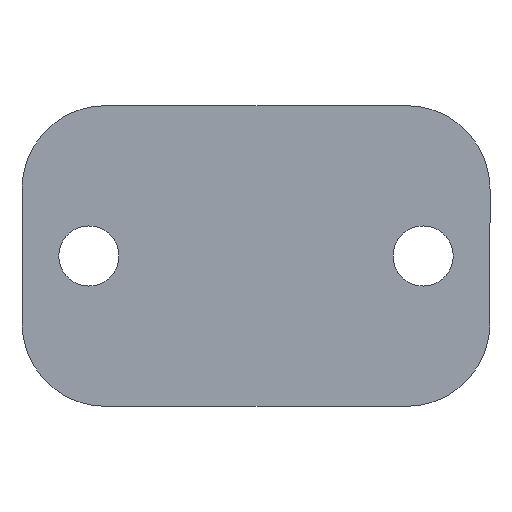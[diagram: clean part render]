
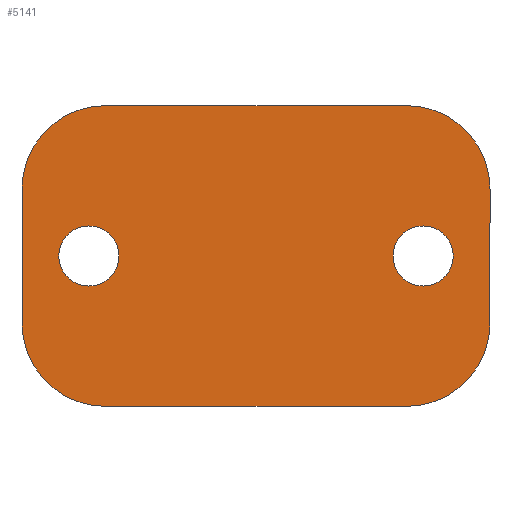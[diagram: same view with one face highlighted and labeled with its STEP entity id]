
A CAD part, front view. The second image highlights one B-rep face of the part: STEP entity #5141.
In plain terms, the highlighted planar face has unit normal (0, -1, 0).
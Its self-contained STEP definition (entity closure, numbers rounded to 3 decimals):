
#36 = DIRECTION ( 'NONE',  ( 0., -1., 0. ) ) ;
#55 = VERTEX_POINT ( 'NONE', #2173 ) ;
#127 = CARTESIAN_POINT ( 'NONE',  ( -45., -20., 45. ) ) ;
#172 = VECTOR ( 'NONE', #2388, 1000. ) ;
#213 = ORIENTED_EDGE ( 'NONE', *, *, #978, .F. ) ;
#234 = CIRCLE ( 'NONE', #3420, 9. ) ;
#355 = ORIENTED_EDGE ( 'NONE', *, *, #2379, .T. ) ;
#365 = CARTESIAN_POINT ( 'NONE',  ( -45., -20., -45. ) ) ;
#380 = CARTESIAN_POINT ( 'NONE',  ( -70., -20., 20. ) ) ;
#664 = AXIS2_PLACEMENT_3D ( 'NONE', #2632, #894, #867 ) ;
#716 = DIRECTION ( 'NONE',  ( 1., 0., 0. ) ) ;
#760 = ORIENTED_EDGE ( 'NONE', *, *, #1167, .T. ) ;
#867 = DIRECTION ( 'NONE',  ( 1., 0., 0. ) ) ;
#894 = DIRECTION ( 'NONE',  ( 0., -1., 0. ) ) ;
#935 = CIRCLE ( 'NONE', #3315, 25. ) ;
#942 = EDGE_CURVE ( 'NONE', #1245, #1904, #2061, .T. ) ;
#976 = ORIENTED_EDGE ( 'NONE', *, *, #3835, .T. ) ;
#978 = EDGE_CURVE ( 'NONE', #5220, #1821, #234, .T. ) ;
#1018 = DIRECTION ( 'NONE',  ( 1., 0., 0. ) ) ;
#1049 = CARTESIAN_POINT ( 'NONE',  ( -41., -20., 0. ) ) ;
#1090 = DIRECTION ( 'NONE',  ( 0., -1., 0. ) ) ;
#1143 = DIRECTION ( 'NONE',  ( 0., -1., 0. ) ) ;
#1167 = EDGE_CURVE ( 'NONE', #1732, #3850, #5498, .T. ) ;
#1218 = DIRECTION ( 'NONE',  ( 0., 0., -1. ) ) ;
#1237 = AXIS2_PLACEMENT_3D ( 'NONE', #2473, #1143, #716 ) ;
#1245 = VERTEX_POINT ( 'NONE', #1844 ) ;
#1324 = AXIS2_PLACEMENT_3D ( 'NONE', #4335, #2130, #3888 ) ;
#1404 = ORIENTED_EDGE ( 'NONE', *, *, #3285, .T. ) ;
#1508 = EDGE_CURVE ( 'NONE', #5325, #5446, #5238, .T. ) ;
#1635 = LINE ( 'NONE', #365, #4025 ) ;
#1659 = DIRECTION ( 'NONE',  ( 1., 0., 0. ) ) ;
#1731 = PLANE ( 'NONE',  #2048 ) ;
#1732 = VERTEX_POINT ( 'NONE', #127 ) ;
#1745 = DIRECTION ( 'NONE',  ( 0., 0., 1. ) ) ;
#1786 = CARTESIAN_POINT ( 'NONE',  ( 45., -20., -45. ) ) ;
#1802 = CARTESIAN_POINT ( 'NONE',  ( 45., -20., 45. ) ) ;
#1821 = VERTEX_POINT ( 'NONE', #4118 ) ;
#1843 = DIRECTION ( 'NONE',  ( 0., -1., 0. ) ) ;
#1844 = CARTESIAN_POINT ( 'NONE',  ( -59., -20., 0. ) ) ;
#1885 = VERTEX_POINT ( 'NONE', #2018 ) ;
#1903 = EDGE_CURVE ( 'NONE', #5446, #1732, #2359, .T. ) ;
#1904 = VERTEX_POINT ( 'NONE', #1049 ) ;
#1909 = CARTESIAN_POINT ( 'NONE',  ( -45., -20., -20. ) ) ;
#2018 = CARTESIAN_POINT ( 'NONE',  ( -45., -20., -45. ) ) ;
#2048 = AXIS2_PLACEMENT_3D ( 'NONE', #2125, #36, #5156 ) ;
#2061 = CIRCLE ( 'NONE', #1237, 9. ) ;
#2125 = CARTESIAN_POINT ( 'NONE',  ( 0., -20., 0. ) ) ;
#2130 = DIRECTION ( 'NONE',  ( 0., -1., 0. ) ) ;
#2173 = CARTESIAN_POINT ( 'NONE',  ( -70., -20., -20. ) ) ;
#2214 = CARTESIAN_POINT ( 'NONE',  ( 70., -20., -20. ) ) ;
#2300 = ORIENTED_EDGE ( 'NONE', *, *, #2446, .F. ) ;
#2303 = VECTOR ( 'NONE', #1745, 1000. ) ;
#2343 = CARTESIAN_POINT ( 'NONE',  ( 45., -20., 20. ) ) ;
#2359 = LINE ( 'NONE', #4934, #172 ) ;
#2379 = EDGE_CURVE ( 'NONE', #3850, #55, #3858, .T. ) ;
#2388 = DIRECTION ( 'NONE',  ( -1., 0., 0. ) ) ;
#2435 = VERTEX_POINT ( 'NONE', #1786 ) ;
#2446 = EDGE_CURVE ( 'NONE', #1821, #5220, #3119, .T. ) ;
#2473 = CARTESIAN_POINT ( 'NONE',  ( -50., -20., 0. ) ) ;
#2570 = AXIS2_PLACEMENT_3D ( 'NONE', #3619, #1843, #3130 ) ;
#2632 = CARTESIAN_POINT ( 'NONE',  ( 50., -20., 0. ) ) ;
#2707 = DIRECTION ( 'NONE',  ( 1., 0., 0. ) ) ;
#2767 = ORIENTED_EDGE ( 'NONE', *, *, #3905, .T. ) ;
#2822 = EDGE_LOOP ( 'NONE', ( #2767, #1404, #976, #3075, #4086, #2926, #760, #355 ) ) ;
#2828 = DIRECTION ( 'NONE',  ( 1., 0., 0. ) ) ;
#2883 = CARTESIAN_POINT ( 'NONE',  ( -50., -20., 0. ) ) ;
#2926 = ORIENTED_EDGE ( 'NONE', *, *, #1903, .T. ) ;
#2961 = FACE_BOUND ( 'NONE', #3433, .T. ) ;
#3039 = EDGE_CURVE ( 'NONE', #4862, #5325, #5569, .T. ) ;
#3043 = EDGE_LOOP ( 'NONE', ( #213, #2300 ) ) ;
#3075 = ORIENTED_EDGE ( 'NONE', *, *, #3039, .T. ) ;
#3119 = CIRCLE ( 'NONE', #664, 9. ) ;
#3130 = DIRECTION ( 'NONE',  ( 1., 0., 0. ) ) ;
#3285 = EDGE_CURVE ( 'NONE', #1885, #2435, #1635, .T. ) ;
#3315 = AXIS2_PLACEMENT_3D ( 'NONE', #1909, #4937, #1018 ) ;
#3420 = AXIS2_PLACEMENT_3D ( 'NONE', #4097, #4577, #2828 ) ;
#3431 = CARTESIAN_POINT ( 'NONE',  ( 70., -20., 20. ) ) ;
#3433 = EDGE_LOOP ( 'NONE', ( #4066, #5354 ) ) ;
#3556 = CARTESIAN_POINT ( 'NONE',  ( 59., -20., 0. ) ) ;
#3619 = CARTESIAN_POINT ( 'NONE',  ( 45., -20., -20. ) ) ;
#3835 = EDGE_CURVE ( 'NONE', #2435, #4862, #5294, .T. ) ;
#3850 = VERTEX_POINT ( 'NONE', #4755 ) ;
#3858 = LINE ( 'NONE', #380, #4203 ) ;
#3888 = DIRECTION ( 'NONE',  ( 1., 0., 0. ) ) ;
#3905 = EDGE_CURVE ( 'NONE', #55, #1885, #935, .T. ) ;
#4025 = VECTOR ( 'NONE', #1659, 1000. ) ;
#4066 = ORIENTED_EDGE ( 'NONE', *, *, #5048, .F. ) ;
#4071 = AXIS2_PLACEMENT_3D ( 'NONE', #2343, #1090, #2707 ) ;
#4086 = ORIENTED_EDGE ( 'NONE', *, *, #1508, .T. ) ;
#4097 = CARTESIAN_POINT ( 'NONE',  ( 50., -20., 0. ) ) ;
#4118 = CARTESIAN_POINT ( 'NONE',  ( 41., -20., 0. ) ) ;
#4203 = VECTOR ( 'NONE', #1218, 1000. ) ;
#4335 = CARTESIAN_POINT ( 'NONE',  ( -45., -20., 20. ) ) ;
#4488 = CIRCLE ( 'NONE', #5565, 9. ) ;
#4549 = DIRECTION ( 'NONE',  ( 0., -1., 0. ) ) ;
#4577 = DIRECTION ( 'NONE',  ( 0., -1., 0. ) ) ;
#4600 = DIRECTION ( 'NONE',  ( 1., 0., 0. ) ) ;
#4678 = FACE_OUTER_BOUND ( 'NONE', #2822, .T. ) ;
#4755 = CARTESIAN_POINT ( 'NONE',  ( -70., -20., 20. ) ) ;
#4862 = VERTEX_POINT ( 'NONE', #2214 ) ;
#4934 = CARTESIAN_POINT ( 'NONE',  ( -45., -20., 45. ) ) ;
#4937 = DIRECTION ( 'NONE',  ( 0., -1., 0. ) ) ;
#5048 = EDGE_CURVE ( 'NONE', #1904, #1245, #4488, .T. ) ;
#5141 = ADVANCED_FACE ( 'NONE', ( #2961, #5603, #4678 ), #1731, .T. ) ;
#5156 = DIRECTION ( 'NONE',  ( 1., 0., 0. ) ) ;
#5220 = VERTEX_POINT ( 'NONE', #3556 ) ;
#5238 = CIRCLE ( 'NONE', #4071, 25. ) ;
#5294 = CIRCLE ( 'NONE', #2570, 25. ) ;
#5325 = VERTEX_POINT ( 'NONE', #5543 ) ;
#5354 = ORIENTED_EDGE ( 'NONE', *, *, #942, .F. ) ;
#5446 = VERTEX_POINT ( 'NONE', #1802 ) ;
#5498 = CIRCLE ( 'NONE', #1324, 25. ) ;
#5543 = CARTESIAN_POINT ( 'NONE',  ( 70., -20., 20. ) ) ;
#5565 = AXIS2_PLACEMENT_3D ( 'NONE', #2883, #4549, #4600 ) ;
#5569 = LINE ( 'NONE', #3431, #2303 ) ;
#5603 = FACE_BOUND ( 'NONE', #3043, .T. ) ;
